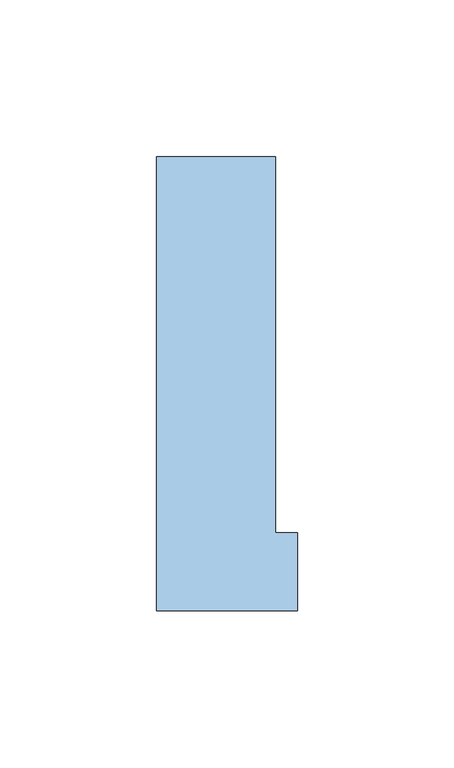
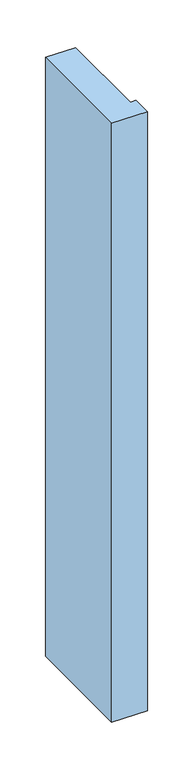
"""IFC4 building model written with IfcOpenShell, lengths in millimetres: window geometry, NLRS_30_WIN_spouwlat-zijstijll_sh_gen_TOBA-JM : ok-bk-recht-45x145."""

from ifc_helpers import new_model, si_unit, origin, origin_with_axes, place, context, project, spatial, polyline, outline, extrude, source, transform, mapped, element, save


def window_0d1de98a(model_context):
    return source(origin(), model_context, "Body", "SweptSolid", [
        extrude(outline(polyline([(-38.0, 145.0), (0.0, 145.0), (0.0, 25.0), (7.0, 25.0), (7.0, 0.0), (-38.0, 0.0), (-38.0, 145.0)])), origin_with_axes(), (0.0, 0.0, 1.0), 800.0),
    ])


if __name__ == "__main__":
    model = new_model("IFC4")
    model_context = context("Model", 3, world=origin())
    ifc_project = project(units=[si_unit("LENGTHUNIT", "METRE", prefix="MILLI")], contexts=[model_context])
    site = spatial("IfcSite", under=ifc_project)
    building = spatial("IfcBuilding", under=site)
    placement = place(None, origin())
    window_shape = window_0d1de98a(model_context)
    element("IfcWindow", 1, ObjectType="NLRS_30_WIN_spouwlat-zijstijll_sh_gen_TOBA-JM : ok-bk-recht-45x145", at=placement, inside=building, context=model_context, shape_type="MappedRepresentation", body=[
        mapped(window_shape, transform((0.0, 0.0, 0.0), x_axis=(1.0, 0.0, 0.0), y_axis=(0.0, 1.0, 0.0), z_axis=(0.0, 0.0, 1.0))),
    ])
    save(model, "model.ifc")
